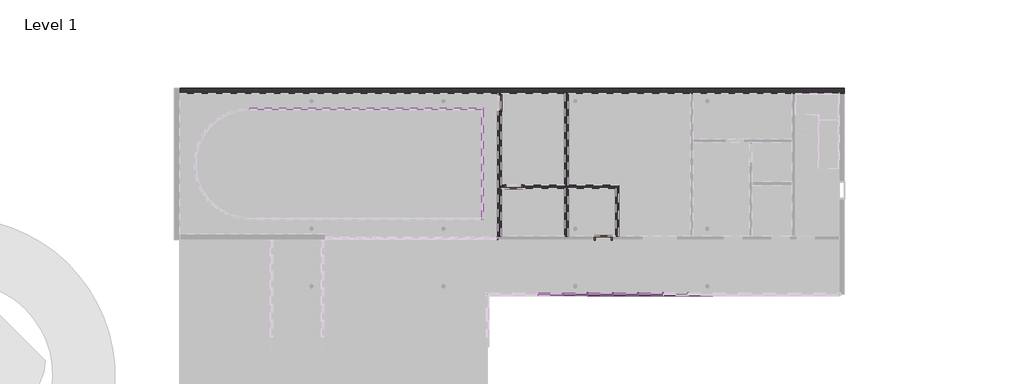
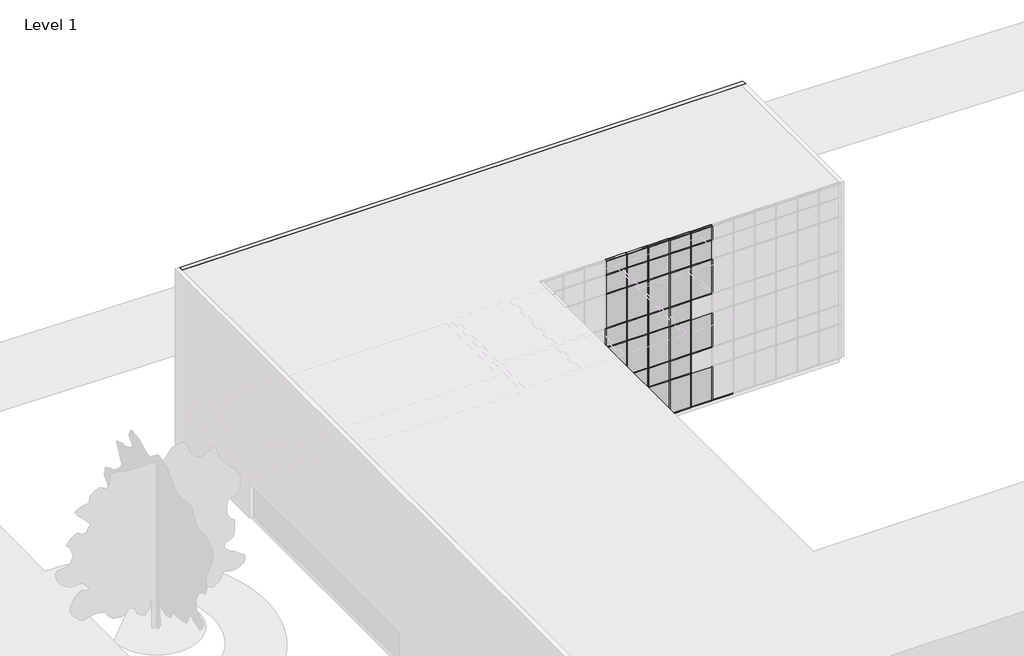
# One storey, part 15 of 23: 77 members, 34 plates, 7 walls, 3 doors.
"""IFC4 building model written with IfcOpenShell, lengths in millimetres."""

from ifc_helpers import new_model, si_unit, origin, origin_with_axes, place, context, project, spatial, polyline, outline, extrude, faceted_brep, transform, mapped, element, save
from components import door_0915mm_x_2134mm_2aa27b83, door_0915mm_x_2134mm_3fa07aa3, rectangular_mullion_50mm_x_150mm_550cda47, rectangular_mullion_50mm_x_150mm_0f59f38f, rectangular_mullion_50mm_x_150mm_22af440f, rectangular_mullion_50mm_x_150mm_5a36e067, rectangular_mullion_50mm_x_150mm_73e7bd4c, rectangular_mullion_50mm_x_150mm_bbc1c4ea, rectangular_mullion_50mm_x_150mm_36202a7c, rectangular_mullion_50mm_x_150mm_84717ec5, system_panel_glazed_6032f2be, system_panel_glazed_cd6fe77c, system_panel_solid_87c6c2f1, system_panel_solid_e0f9033a

model = new_model("IFC4")

# Units and contexts
model_context = context("Model", 3, world=origin())
ifc_project = project(units=[si_unit("LENGTHUNIT", "METRE", prefix="MILLI")], contexts=[model_context])

# Site, building, storey
site = spatial("IfcSite", under=ifc_project)
building = spatial("IfcBuilding", under=site)
storey = spatial("IfcBuildingStorey", under=building, Name="Level 1", Elevation=0.0)

# Doors
placement = place(None, origin())
door_0915mm_x_2134mm_shape = door_0915mm_x_2134mm_2aa27b83(model_context)
element("IfcDoor", 1, ObjectType="m-doors-hm-f1-a : 0915mm x 2134mm", at=placement, inside=storey, context=model_context, shape_type="MappedRepresentation", body=[
    mapped(door_0915mm_x_2134mm_shape, transform((8314.5010724, 30269.5799804, 0.0), x_axis=(0.0, -1.0, 0.0), y_axis=(1.0, 0.0, 0.0), z_axis=(0.0, 0.0, 1.0))),
])
element("IfcDoor", 2, ObjectType="m-doors-hm-f1-a : 0915mm x 2134mm", at=placement, inside=storey, context=model_context, shape_type="MappedRepresentation", body=[
    mapped(door_0915mm_x_2134mm_shape, transform((14023.5010724, 22787.5799804, 0.0), x_axis=(1.0, 0.0, 0.0), y_axis=(0.0, 1.0, 0.0), z_axis=(0.0, 0.0, 1.0))),
])
door_0915mm_x_2134mm_2_shape = door_0915mm_x_2134mm_3fa07aa3(model_context)
element("IfcDoor", 3, ObjectType="m-doors-hm-f1-a : 0915mm x 2134mm", at=placement, inside=storey, context=model_context, shape_type="MappedRepresentation", body=[
    mapped(door_0915mm_x_2134mm_2_shape, transform((8939.5010724, 25345.5799804, 0.0), x_axis=(1.0, 0.0, 0.0), y_axis=(0.0, 1.0, 0.0), z_axis=(0.0, 0.0, 1.0))),
])

# Members
rectangular_mullion_50mm_x_150mm_shape = rectangular_mullion_50mm_x_150mm_550cda47(model_context)
element("IfcMember", 4, ObjectType="Rectangular Mullion : 50mm x 150mm", at=placement, inside=storey, context=model_context, shape_type="MappedRepresentation", body=[
    mapped(rectangular_mullion_50mm_x_150mm_shape, transform((8047.5010724, 22595.5799804, 2235.0), x_axis=(1.0, 0.0, 0.0), y_axis=(0.0, 1.0, 0.0), z_axis=(0.0, 0.0, 1.0))),
])
rectangular_mullion_50mm_x_150mm_2_shape = rectangular_mullion_50mm_x_150mm_0f59f38f(model_context)
element("IfcMember", 5, ObjectType="Rectangular Mullion : 50mm x 150mm", at=placement, inside=storey, context=model_context, shape_type="MappedRepresentation", body=[
    mapped(rectangular_mullion_50mm_x_150mm_2_shape, transform((8047.5010724, 22595.5799804, 3550.0), x_axis=(1.0, 0.0, 0.0), y_axis=(0.0, 1.0, 0.0), z_axis=(0.0, 0.0, 1.0))),
])
rectangular_mullion_50mm_x_150mm_3_shape = rectangular_mullion_50mm_x_150mm_22af440f(model_context)
element("IfcMember", 6, ObjectType="Rectangular Mullion : 50mm x 150mm", at=placement, inside=storey, context=model_context, shape_type="MappedRepresentation", body=[
    mapped(rectangular_mullion_50mm_x_150mm_3_shape, transform((8047.5010724, 22595.5799804, 2135.0), x_axis=(1.0, 0.0, 0.0), y_axis=(0.0, 1.0, 0.0), z_axis=(0.0, 0.0, 1.0))),
])
rectangular_mullion_50mm_x_150mm_4_shape = rectangular_mullion_50mm_x_150mm_5a36e067(model_context)
element("IfcMember", 7, ObjectType="Rectangular Mullion : 50mm x 150mm", at=placement, inside=storey, context=model_context, shape_type="MappedRepresentation", body=[
    mapped(rectangular_mullion_50mm_x_150mm_4_shape, transform((13126.615026, 19414.8392059, 12400.0), x_axis=(0.0, 0.0, 1.0), y_axis=(0.0, -1.0, 0.0), z_axis=(1.0, 0.0, 0.0))),
])
element("IfcMember", 8, ObjectType="Rectangular Mullion : 50mm x 150mm", at=placement, inside=storey, context=model_context, shape_type="MappedRepresentation", body=[
    mapped(rectangular_mullion_50mm_x_150mm_4_shape, transform((14552.6435143, 19414.8392059, 12400.0), x_axis=(0.0, 0.0, 1.0), y_axis=(0.0, -1.0, 0.0), z_axis=(1.0, 0.0, 0.0))),
])
element("IfcMember", 9, ObjectType="Rectangular Mullion : 50mm x 150mm", at=placement, inside=storey, context=model_context, shape_type="MappedRepresentation", body=[
    mapped(rectangular_mullion_50mm_x_150mm_4_shape, transform((15978.6720027, 19414.8392059, 12400.0), x_axis=(0.0, 0.0, 1.0), y_axis=(0.0, -1.0, 0.0), z_axis=(1.0, 0.0, 0.0))),
])
element("IfcMember", 10, ObjectType="Rectangular Mullion : 50mm x 150mm", at=placement, inside=storey, context=model_context, shape_type="MappedRepresentation", body=[
    mapped(rectangular_mullion_50mm_x_150mm_4_shape, transform((17404.700491, 19414.8392059, 12400.0), x_axis=(0.0, 0.0, 1.0), y_axis=(0.0, -1.0, 0.0), z_axis=(1.0, 0.0, 0.0))),
])
element("IfcMember", 11, ObjectType="Rectangular Mullion : 50mm x 150mm", at=placement, inside=storey, context=model_context, shape_type="MappedRepresentation", body=[
    mapped(rectangular_mullion_50mm_x_150mm_4_shape, transform((18830.7289793, 19414.8392059, 12400.0), x_axis=(0.0, 0.0, 1.0), y_axis=(0.0, -1.0, 0.0), z_axis=(1.0, 0.0, 0.0))),
])
element("IfcMember", 12, ObjectType="Rectangular Mullion : 50mm x 150mm", at=placement, inside=storey, context=model_context, shape_type="MappedRepresentation", body=[
    mapped(rectangular_mullion_50mm_x_150mm_4_shape, transform((13176.615026, 19414.8392059, 0.0), x_axis=(0.0, 0.0, -1.0), y_axis=(0.0, -1.0, 0.0), z_axis=(-1.0, 0.0, 0.0))),
])
element("IfcMember", 13, ObjectType="Rectangular Mullion : 50mm x 150mm", at=placement, inside=storey, context=model_context, shape_type="MappedRepresentation", body=[
    mapped(rectangular_mullion_50mm_x_150mm_4_shape, transform((14602.6435143, 19414.8392059, 0.0), x_axis=(0.0, 0.0, -1.0), y_axis=(0.0, -1.0, 0.0), z_axis=(-1.0, 0.0, 0.0))),
])
element("IfcMember", 14, ObjectType="Rectangular Mullion : 50mm x 150mm", at=placement, inside=storey, context=model_context, shape_type="MappedRepresentation", body=[
    mapped(rectangular_mullion_50mm_x_150mm_4_shape, transform((16028.6720027, 19414.8392059, 0.0), x_axis=(0.0, 0.0, -1.0), y_axis=(0.0, -1.0, 0.0), z_axis=(-1.0, 0.0, 0.0))),
])
element("IfcMember", 15, ObjectType="Rectangular Mullion : 50mm x 150mm", at=placement, inside=storey, context=model_context, shape_type="MappedRepresentation", body=[
    mapped(rectangular_mullion_50mm_x_150mm_4_shape, transform((17454.700491, 19414.8392059, 0.0), x_axis=(0.0, 0.0, -1.0), y_axis=(0.0, -1.0, 0.0), z_axis=(-1.0, 0.0, 0.0))),
])
element("IfcMember", 16, ObjectType="Rectangular Mullion : 50mm x 150mm", at=placement, inside=storey, context=model_context, shape_type="MappedRepresentation", body=[
    mapped(rectangular_mullion_50mm_x_150mm_4_shape, transform((18880.7289793, 19414.8392059, 0.0), x_axis=(0.0, 0.0, -1.0), y_axis=(0.0, -1.0, 0.0), z_axis=(-1.0, 0.0, 0.0))),
])
rectangular_mullion_50mm_x_150mm_5_shape = rectangular_mullion_50mm_x_150mm_73e7bd4c(model_context)
element("IfcMember", 17, ObjectType="Rectangular Mullion : 50mm x 150mm", at=placement, inside=storey, context=model_context, shape_type="MappedRepresentation", body=[
    mapped(rectangular_mullion_50mm_x_150mm_5_shape, transform((13126.615026, 19414.8392059, 3800.0), x_axis=(0.0, 0.0, 1.0), y_axis=(0.0, -1.0, 0.0), z_axis=(1.0, 0.0, 0.0))),
])
element("IfcMember", 18, ObjectType="Rectangular Mullion : 50mm x 150mm", at=placement, inside=storey, context=model_context, shape_type="MappedRepresentation", body=[
    mapped(rectangular_mullion_50mm_x_150mm_5_shape, transform((14552.6435143, 19414.8392059, 3800.0), x_axis=(0.0, 0.0, 1.0), y_axis=(0.0, -1.0, 0.0), z_axis=(1.0, 0.0, 0.0))),
])
element("IfcMember", 19, ObjectType="Rectangular Mullion : 50mm x 150mm", at=placement, inside=storey, context=model_context, shape_type="MappedRepresentation", body=[
    mapped(rectangular_mullion_50mm_x_150mm_5_shape, transform((15978.6720027, 19414.8392059, 3800.0), x_axis=(0.0, 0.0, 1.0), y_axis=(0.0, -1.0, 0.0), z_axis=(1.0, 0.0, 0.0))),
])
element("IfcMember", 20, ObjectType="Rectangular Mullion : 50mm x 150mm", at=placement, inside=storey, context=model_context, shape_type="MappedRepresentation", body=[
    mapped(rectangular_mullion_50mm_x_150mm_5_shape, transform((17404.700491, 19414.8392059, 3800.0), x_axis=(0.0, 0.0, 1.0), y_axis=(0.0, -1.0, 0.0), z_axis=(1.0, 0.0, 0.0))),
])
element("IfcMember", 21, ObjectType="Rectangular Mullion : 50mm x 150mm", at=placement, inside=storey, context=model_context, shape_type="MappedRepresentation", body=[
    mapped(rectangular_mullion_50mm_x_150mm_5_shape, transform((18830.7289793, 19414.8392059, 3800.0), x_axis=(0.0, 0.0, 1.0), y_axis=(0.0, -1.0, 0.0), z_axis=(1.0, 0.0, 0.0))),
])
element("IfcMember", 22, ObjectType="Rectangular Mullion : 50mm x 150mm", at=placement, inside=storey, context=model_context, shape_type="MappedRepresentation", body=[
    mapped(rectangular_mullion_50mm_x_150mm_5_shape, transform((13126.615026, 19414.8392059, 7600.0), x_axis=(0.0, 0.0, 1.0), y_axis=(0.0, -1.0, 0.0), z_axis=(1.0, 0.0, 0.0))),
])
element("IfcMember", 23, ObjectType="Rectangular Mullion : 50mm x 150mm", at=placement, inside=storey, context=model_context, shape_type="MappedRepresentation", body=[
    mapped(rectangular_mullion_50mm_x_150mm_5_shape, transform((14552.6435143, 19414.8392059, 7600.0), x_axis=(0.0, 0.0, 1.0), y_axis=(0.0, -1.0, 0.0), z_axis=(1.0, 0.0, 0.0))),
])
element("IfcMember", 24, ObjectType="Rectangular Mullion : 50mm x 150mm", at=placement, inside=storey, context=model_context, shape_type="MappedRepresentation", body=[
    mapped(rectangular_mullion_50mm_x_150mm_5_shape, transform((15978.6720027, 19414.8392059, 7600.0), x_axis=(0.0, 0.0, 1.0), y_axis=(0.0, -1.0, 0.0), z_axis=(1.0, 0.0, 0.0))),
])
element("IfcMember", 25, ObjectType="Rectangular Mullion : 50mm x 150mm", at=placement, inside=storey, context=model_context, shape_type="MappedRepresentation", body=[
    mapped(rectangular_mullion_50mm_x_150mm_5_shape, transform((17404.700491, 19414.8392059, 7600.0), x_axis=(0.0, 0.0, 1.0), y_axis=(0.0, -1.0, 0.0), z_axis=(1.0, 0.0, 0.0))),
])
element("IfcMember", 26, ObjectType="Rectangular Mullion : 50mm x 150mm", at=placement, inside=storey, context=model_context, shape_type="MappedRepresentation", body=[
    mapped(rectangular_mullion_50mm_x_150mm_5_shape, transform((18830.7289793, 19414.8392059, 7600.0), x_axis=(0.0, 0.0, 1.0), y_axis=(0.0, -1.0, 0.0), z_axis=(1.0, 0.0, 0.0))),
])
element("IfcMember", 27, ObjectType="Rectangular Mullion : 50mm x 150mm", at=placement, inside=storey, context=model_context, shape_type="MappedRepresentation", body=[
    mapped(rectangular_mullion_50mm_x_150mm_5_shape, transform((13126.615026, 19414.8392059, 11400.0), x_axis=(0.0, 0.0, 1.0), y_axis=(0.0, -1.0, 0.0), z_axis=(1.0, 0.0, 0.0))),
])
element("IfcMember", 28, ObjectType="Rectangular Mullion : 50mm x 150mm", at=placement, inside=storey, context=model_context, shape_type="MappedRepresentation", body=[
    mapped(rectangular_mullion_50mm_x_150mm_5_shape, transform((14552.6435143, 19414.8392059, 11400.0), x_axis=(0.0, 0.0, 1.0), y_axis=(0.0, -1.0, 0.0), z_axis=(1.0, 0.0, 0.0))),
])
element("IfcMember", 29, ObjectType="Rectangular Mullion : 50mm x 150mm", at=placement, inside=storey, context=model_context, shape_type="MappedRepresentation", body=[
    mapped(rectangular_mullion_50mm_x_150mm_5_shape, transform((15978.6720027, 19414.8392059, 11400.0), x_axis=(0.0, 0.0, 1.0), y_axis=(0.0, -1.0, 0.0), z_axis=(1.0, 0.0, 0.0))),
])
element("IfcMember", 30, ObjectType="Rectangular Mullion : 50mm x 150mm", at=placement, inside=storey, context=model_context, shape_type="MappedRepresentation", body=[
    mapped(rectangular_mullion_50mm_x_150mm_5_shape, transform((17404.700491, 19414.8392059, 11400.0), x_axis=(0.0, 0.0, 1.0), y_axis=(0.0, -1.0, 0.0), z_axis=(1.0, 0.0, 0.0))),
])
element("IfcMember", 31, ObjectType="Rectangular Mullion : 50mm x 150mm", at=placement, inside=storey, context=model_context, shape_type="MappedRepresentation", body=[
    mapped(rectangular_mullion_50mm_x_150mm_5_shape, transform((18830.7289793, 19414.8392059, 11400.0), x_axis=(0.0, 0.0, 1.0), y_axis=(0.0, -1.0, 0.0), z_axis=(1.0, 0.0, 0.0))),
])
element("IfcMember", 32, ObjectType="Rectangular Mullion : 50mm x 150mm", at=placement, inside=storey, context=model_context, shape_type="MappedRepresentation", body=[
    mapped(rectangular_mullion_50mm_x_150mm_5_shape, transform((13126.615026, 19414.8392059, 10040.0), x_axis=(0.0, 0.0, 1.0), y_axis=(0.0, -1.0, 0.0), z_axis=(1.0, 0.0, 0.0))),
])
element("IfcMember", 33, ObjectType="Rectangular Mullion : 50mm x 150mm", at=placement, inside=storey, context=model_context, shape_type="MappedRepresentation", body=[
    mapped(rectangular_mullion_50mm_x_150mm_5_shape, transform((14552.6435143, 19414.8392059, 10040.0), x_axis=(0.0, 0.0, 1.0), y_axis=(0.0, -1.0, 0.0), z_axis=(1.0, 0.0, 0.0))),
])
element("IfcMember", 34, ObjectType="Rectangular Mullion : 50mm x 150mm", at=placement, inside=storey, context=model_context, shape_type="MappedRepresentation", body=[
    mapped(rectangular_mullion_50mm_x_150mm_5_shape, transform((15978.6720027, 19414.8392059, 10040.0), x_axis=(0.0, 0.0, 1.0), y_axis=(0.0, -1.0, 0.0), z_axis=(1.0, 0.0, 0.0))),
])
element("IfcMember", 35, ObjectType="Rectangular Mullion : 50mm x 150mm", at=placement, inside=storey, context=model_context, shape_type="MappedRepresentation", body=[
    mapped(rectangular_mullion_50mm_x_150mm_5_shape, transform((17404.700491, 19414.8392059, 10040.0), x_axis=(0.0, 0.0, 1.0), y_axis=(0.0, -1.0, 0.0), z_axis=(1.0, 0.0, 0.0))),
])
element("IfcMember", 36, ObjectType="Rectangular Mullion : 50mm x 150mm", at=placement, inside=storey, context=model_context, shape_type="MappedRepresentation", body=[
    mapped(rectangular_mullion_50mm_x_150mm_5_shape, transform((18830.7289793, 19414.8392059, 10040.0), x_axis=(0.0, 0.0, 1.0), y_axis=(0.0, -1.0, 0.0), z_axis=(1.0, 0.0, 0.0))),
])
element("IfcMember", 37, ObjectType="Rectangular Mullion : 50mm x 150mm", at=placement, inside=storey, context=model_context, shape_type="MappedRepresentation", body=[
    mapped(rectangular_mullion_50mm_x_150mm_5_shape, transform((11700.5865377, 19414.8392059, 6240.0), x_axis=(0.0, 0.0, 1.0), y_axis=(0.0, -1.0, 0.0), z_axis=(1.0, 0.0, 0.0))),
])
element("IfcMember", 38, ObjectType="Rectangular Mullion : 50mm x 150mm", at=placement, inside=storey, context=model_context, shape_type="MappedRepresentation", body=[
    mapped(rectangular_mullion_50mm_x_150mm_5_shape, transform((13126.615026, 19414.8392059, 6240.0), x_axis=(0.0, 0.0, 1.0), y_axis=(0.0, -1.0, 0.0), z_axis=(1.0, 0.0, 0.0))),
])
element("IfcMember", 39, ObjectType="Rectangular Mullion : 50mm x 150mm", at=placement, inside=storey, context=model_context, shape_type="MappedRepresentation", body=[
    mapped(rectangular_mullion_50mm_x_150mm_5_shape, transform((14552.6435143, 19414.8392059, 6240.0), x_axis=(0.0, 0.0, 1.0), y_axis=(0.0, -1.0, 0.0), z_axis=(1.0, 0.0, 0.0))),
])
element("IfcMember", 40, ObjectType="Rectangular Mullion : 50mm x 150mm", at=placement, inside=storey, context=model_context, shape_type="MappedRepresentation", body=[
    mapped(rectangular_mullion_50mm_x_150mm_5_shape, transform((15978.6720027, 19414.8392059, 6240.0), x_axis=(0.0, 0.0, 1.0), y_axis=(0.0, -1.0, 0.0), z_axis=(1.0, 0.0, 0.0))),
])
element("IfcMember", 41, ObjectType="Rectangular Mullion : 50mm x 150mm", at=placement, inside=storey, context=model_context, shape_type="MappedRepresentation", body=[
    mapped(rectangular_mullion_50mm_x_150mm_5_shape, transform((17404.700491, 19414.8392059, 6240.0), x_axis=(0.0, 0.0, 1.0), y_axis=(0.0, -1.0, 0.0), z_axis=(1.0, 0.0, 0.0))),
])
element("IfcMember", 42, ObjectType="Rectangular Mullion : 50mm x 150mm", at=placement, inside=storey, context=model_context, shape_type="MappedRepresentation", body=[
    mapped(rectangular_mullion_50mm_x_150mm_5_shape, transform((11700.5865377, 19414.8392059, 2440.0), x_axis=(0.0, 0.0, 1.0), y_axis=(0.0, -1.0, 0.0), z_axis=(1.0, 0.0, 0.0))),
])
element("IfcMember", 43, ObjectType="Rectangular Mullion : 50mm x 150mm", at=placement, inside=storey, context=model_context, shape_type="MappedRepresentation", body=[
    mapped(rectangular_mullion_50mm_x_150mm_5_shape, transform((13126.615026, 19414.8392059, 2440.0), x_axis=(0.0, 0.0, 1.0), y_axis=(0.0, -1.0, 0.0), z_axis=(1.0, 0.0, 0.0))),
])
element("IfcMember", 44, ObjectType="Rectangular Mullion : 50mm x 150mm", at=placement, inside=storey, context=model_context, shape_type="MappedRepresentation", body=[
    mapped(rectangular_mullion_50mm_x_150mm_5_shape, transform((14552.6435143, 19414.8392059, 2440.0), x_axis=(0.0, 0.0, 1.0), y_axis=(0.0, -1.0, 0.0), z_axis=(1.0, 0.0, 0.0))),
])
element("IfcMember", 45, ObjectType="Rectangular Mullion : 50mm x 150mm", at=placement, inside=storey, context=model_context, shape_type="MappedRepresentation", body=[
    mapped(rectangular_mullion_50mm_x_150mm_5_shape, transform((15978.6720027, 19414.8392059, 2440.0), x_axis=(0.0, 0.0, 1.0), y_axis=(0.0, -1.0, 0.0), z_axis=(1.0, 0.0, 0.0))),
])
element("IfcMember", 46, ObjectType="Rectangular Mullion : 50mm x 150mm", at=placement, inside=storey, context=model_context, shape_type="MappedRepresentation", body=[
    mapped(rectangular_mullion_50mm_x_150mm_5_shape, transform((17404.700491, 19414.8392059, 2440.0), x_axis=(0.0, 0.0, 1.0), y_axis=(0.0, -1.0, 0.0), z_axis=(1.0, 0.0, 0.0))),
])
rectangular_mullion_50mm_x_150mm_6_shape = rectangular_mullion_50mm_x_150mm_bbc1c4ea(model_context)
element("IfcMember", 47, ObjectType="Rectangular Mullion : 50mm x 150mm", at=placement, inside=storey, context=model_context, shape_type="MappedRepresentation", body=[
    mapped(rectangular_mullion_50mm_x_150mm_6_shape, transform((13151.615026, 19414.8392059, 11400.0), x_axis=(1.0, 0.0, 0.0), y_axis=(0.0, -1.0, 0.0), z_axis=(0.0, 0.0, -1.0))),
])
element("IfcMember", 48, ObjectType="Rectangular Mullion : 50mm x 150mm", at=placement, inside=storey, context=model_context, shape_type="MappedRepresentation", body=[
    mapped(rectangular_mullion_50mm_x_150mm_6_shape, transform((14577.6435143, 19414.8392059, 11400.0), x_axis=(1.0, 0.0, 0.0), y_axis=(0.0, -1.0, 0.0), z_axis=(0.0, 0.0, -1.0))),
])
element("IfcMember", 49, ObjectType="Rectangular Mullion : 50mm x 150mm", at=placement, inside=storey, context=model_context, shape_type="MappedRepresentation", body=[
    mapped(rectangular_mullion_50mm_x_150mm_6_shape, transform((16003.6720027, 19414.8392059, 11400.0), x_axis=(1.0, 0.0, 0.0), y_axis=(0.0, -1.0, 0.0), z_axis=(0.0, 0.0, -1.0))),
])
element("IfcMember", 50, ObjectType="Rectangular Mullion : 50mm x 150mm", at=placement, inside=storey, context=model_context, shape_type="MappedRepresentation", body=[
    mapped(rectangular_mullion_50mm_x_150mm_6_shape, transform((17429.700491, 19414.8392059, 11400.0), x_axis=(1.0, 0.0, 0.0), y_axis=(0.0, -1.0, 0.0), z_axis=(0.0, 0.0, -1.0))),
])
element("IfcMember", 51, ObjectType="Rectangular Mullion : 50mm x 150mm", at=placement, inside=storey, context=model_context, shape_type="MappedRepresentation", body=[
    mapped(rectangular_mullion_50mm_x_150mm_6_shape, transform((18855.7289793, 19414.8392059, 11400.0), x_axis=(1.0, 0.0, 0.0), y_axis=(0.0, -1.0, 0.0), z_axis=(0.0, 0.0, -1.0))),
])
rectangular_mullion_50mm_x_150mm_7_shape = rectangular_mullion_50mm_x_150mm_36202a7c(model_context)
element("IfcMember", 52, ObjectType="Rectangular Mullion : 50mm x 150mm", at=placement, inside=storey, context=model_context, shape_type="MappedRepresentation", body=[
    mapped(rectangular_mullion_50mm_x_150mm_7_shape, transform((13151.615026, 19414.8392059, 0.0), x_axis=(1.0, 0.0, 0.0), y_axis=(0.0, -1.0, 0.0), z_axis=(0.0, 0.0, -1.0))),
])
element("IfcMember", 53, ObjectType="Rectangular Mullion : 50mm x 150mm", at=placement, inside=storey, context=model_context, shape_type="MappedRepresentation", body=[
    mapped(rectangular_mullion_50mm_x_150mm_7_shape, transform((14577.6435143, 19414.8392059, 0.0), x_axis=(1.0, 0.0, 0.0), y_axis=(0.0, -1.0, 0.0), z_axis=(0.0, 0.0, -1.0))),
])
element("IfcMember", 54, ObjectType="Rectangular Mullion : 50mm x 150mm", at=placement, inside=storey, context=model_context, shape_type="MappedRepresentation", body=[
    mapped(rectangular_mullion_50mm_x_150mm_7_shape, transform((16003.6720027, 19414.8392059, 0.0), x_axis=(1.0, 0.0, 0.0), y_axis=(0.0, -1.0, 0.0), z_axis=(0.0, 0.0, -1.0))),
])
element("IfcMember", 55, ObjectType="Rectangular Mullion : 50mm x 150mm", at=placement, inside=storey, context=model_context, shape_type="MappedRepresentation", body=[
    mapped(rectangular_mullion_50mm_x_150mm_7_shape, transform((17429.700491, 19414.8392059, 0.0), x_axis=(1.0, 0.0, 0.0), y_axis=(0.0, -1.0, 0.0), z_axis=(0.0, 0.0, -1.0))),
])
element("IfcMember", 56, ObjectType="Rectangular Mullion : 50mm x 150mm", at=placement, inside=storey, context=model_context, shape_type="MappedRepresentation", body=[
    mapped(rectangular_mullion_50mm_x_150mm_7_shape, transform((18855.7289793, 19414.8392059, 0.0), x_axis=(1.0, 0.0, 0.0), y_axis=(0.0, -1.0, 0.0), z_axis=(0.0, 0.0, -1.0))),
])
rectangular_mullion_50mm_x_150mm_8_shape = rectangular_mullion_50mm_x_150mm_84717ec5(model_context)
element("IfcMember", 57, ObjectType="Rectangular Mullion : 50mm x 150mm", at=placement, inside=storey, context=model_context, shape_type="MappedRepresentation", body=[
    mapped(rectangular_mullion_50mm_x_150mm_8_shape, transform((13151.615026, 19414.8392059, 10040.0), x_axis=(1.0, 0.0, 0.0), y_axis=(0.0, -1.0, 0.0), z_axis=(0.0, 0.0, -1.0))),
])
element("IfcMember", 58, ObjectType="Rectangular Mullion : 50mm x 150mm", at=placement, inside=storey, context=model_context, shape_type="MappedRepresentation", body=[
    mapped(rectangular_mullion_50mm_x_150mm_8_shape, transform((14577.6435143, 19414.8392059, 10040.0), x_axis=(1.0, 0.0, 0.0), y_axis=(0.0, -1.0, 0.0), z_axis=(0.0, 0.0, -1.0))),
])
element("IfcMember", 59, ObjectType="Rectangular Mullion : 50mm x 150mm", at=placement, inside=storey, context=model_context, shape_type="MappedRepresentation", body=[
    mapped(rectangular_mullion_50mm_x_150mm_8_shape, transform((16003.6720027, 19414.8392059, 10040.0), x_axis=(1.0, 0.0, 0.0), y_axis=(0.0, -1.0, 0.0), z_axis=(0.0, 0.0, -1.0))),
])
element("IfcMember", 60, ObjectType="Rectangular Mullion : 50mm x 150mm", at=placement, inside=storey, context=model_context, shape_type="MappedRepresentation", body=[
    mapped(rectangular_mullion_50mm_x_150mm_8_shape, transform((17429.700491, 19414.8392059, 10040.0), x_axis=(1.0, 0.0, 0.0), y_axis=(0.0, -1.0, 0.0), z_axis=(0.0, 0.0, -1.0))),
])
element("IfcMember", 61, ObjectType="Rectangular Mullion : 50mm x 150mm", at=placement, inside=storey, context=model_context, shape_type="MappedRepresentation", body=[
    mapped(rectangular_mullion_50mm_x_150mm_8_shape, transform((11725.5865377, 19414.8392059, 6240.0), x_axis=(1.0, 0.0, 0.0), y_axis=(0.0, -1.0, 0.0), z_axis=(0.0, 0.0, -1.0))),
])
element("IfcMember", 62, ObjectType="Rectangular Mullion : 50mm x 150mm", at=placement, inside=storey, context=model_context, shape_type="MappedRepresentation", body=[
    mapped(rectangular_mullion_50mm_x_150mm_8_shape, transform((13151.615026, 19414.8392059, 6240.0), x_axis=(1.0, 0.0, 0.0), y_axis=(0.0, -1.0, 0.0), z_axis=(0.0, 0.0, -1.0))),
])
element("IfcMember", 63, ObjectType="Rectangular Mullion : 50mm x 150mm", at=placement, inside=storey, context=model_context, shape_type="MappedRepresentation", body=[
    mapped(rectangular_mullion_50mm_x_150mm_8_shape, transform((14577.6435143, 19414.8392059, 6240.0), x_axis=(1.0, 0.0, 0.0), y_axis=(0.0, -1.0, 0.0), z_axis=(0.0, 0.0, -1.0))),
])
element("IfcMember", 64, ObjectType="Rectangular Mullion : 50mm x 150mm", at=placement, inside=storey, context=model_context, shape_type="MappedRepresentation", body=[
    mapped(rectangular_mullion_50mm_x_150mm_8_shape, transform((16003.6720027, 19414.8392059, 6240.0), x_axis=(1.0, 0.0, 0.0), y_axis=(0.0, -1.0, 0.0), z_axis=(0.0, 0.0, -1.0))),
])
element("IfcMember", 65, ObjectType="Rectangular Mullion : 50mm x 150mm", at=placement, inside=storey, context=model_context, shape_type="MappedRepresentation", body=[
    mapped(rectangular_mullion_50mm_x_150mm_8_shape, transform((17429.700491, 19414.8392059, 6240.0), x_axis=(1.0, 0.0, 0.0), y_axis=(0.0, -1.0, 0.0), z_axis=(0.0, 0.0, -1.0))),
])
element("IfcMember", 66, ObjectType="Rectangular Mullion : 50mm x 150mm", at=placement, inside=storey, context=model_context, shape_type="MappedRepresentation", body=[
    mapped(rectangular_mullion_50mm_x_150mm_8_shape, transform((11725.5865377, 19414.8392059, 2440.0), x_axis=(1.0, 0.0, 0.0), y_axis=(0.0, -1.0, 0.0), z_axis=(0.0, 0.0, -1.0))),
])
element("IfcMember", 67, ObjectType="Rectangular Mullion : 50mm x 150mm", at=placement, inside=storey, context=model_context, shape_type="MappedRepresentation", body=[
    mapped(rectangular_mullion_50mm_x_150mm_8_shape, transform((13151.615026, 19414.8392059, 2440.0), x_axis=(1.0, 0.0, 0.0), y_axis=(0.0, -1.0, 0.0), z_axis=(0.0, 0.0, -1.0))),
])
element("IfcMember", 68, ObjectType="Rectangular Mullion : 50mm x 150mm", at=placement, inside=storey, context=model_context, shape_type="MappedRepresentation", body=[
    mapped(rectangular_mullion_50mm_x_150mm_8_shape, transform((14577.6435143, 19414.8392059, 2440.0), x_axis=(1.0, 0.0, 0.0), y_axis=(0.0, -1.0, 0.0), z_axis=(0.0, 0.0, -1.0))),
])
element("IfcMember", 69, ObjectType="Rectangular Mullion : 50mm x 150mm", at=placement, inside=storey, context=model_context, shape_type="MappedRepresentation", body=[
    mapped(rectangular_mullion_50mm_x_150mm_8_shape, transform((16003.6720027, 19414.8392059, 2440.0), x_axis=(1.0, 0.0, 0.0), y_axis=(0.0, -1.0, 0.0), z_axis=(0.0, 0.0, -1.0))),
])
element("IfcMember", 70, ObjectType="Rectangular Mullion : 50mm x 150mm", at=placement, inside=storey, context=model_context, shape_type="MappedRepresentation", body=[
    mapped(rectangular_mullion_50mm_x_150mm_8_shape, transform((17429.700491, 19414.8392059, 2440.0), x_axis=(1.0, 0.0, 0.0), y_axis=(0.0, -1.0, 0.0), z_axis=(0.0, 0.0, -1.0))),
])
element("IfcMember", 71, ObjectType="Rectangular Mullion : 50mm x 150mm", at=placement, inside=storey, context=model_context, shape_type="MappedRepresentation", body=[
    mapped(rectangular_mullion_50mm_x_150mm_7_shape, transform((13151.615026, 19414.8392059, 3800.0), x_axis=(1.0, 0.0, 0.0), y_axis=(0.0, -1.0, 0.0), z_axis=(0.0, 0.0, -1.0))),
])
element("IfcMember", 72, ObjectType="Rectangular Mullion : 50mm x 150mm", at=placement, inside=storey, context=model_context, shape_type="MappedRepresentation", body=[
    mapped(rectangular_mullion_50mm_x_150mm_7_shape, transform((14577.6435143, 19414.8392059, 3800.0), x_axis=(1.0, 0.0, 0.0), y_axis=(0.0, -1.0, 0.0), z_axis=(0.0, 0.0, -1.0))),
])
element("IfcMember", 73, ObjectType="Rectangular Mullion : 50mm x 150mm", at=placement, inside=storey, context=model_context, shape_type="MappedRepresentation", body=[
    mapped(rectangular_mullion_50mm_x_150mm_7_shape, transform((16003.6720027, 19414.8392059, 3800.0), x_axis=(1.0, 0.0, 0.0), y_axis=(0.0, -1.0, 0.0), z_axis=(0.0, 0.0, -1.0))),
])
element("IfcMember", 74, ObjectType="Rectangular Mullion : 50mm x 150mm", at=placement, inside=storey, context=model_context, shape_type="MappedRepresentation", body=[
    mapped(rectangular_mullion_50mm_x_150mm_7_shape, transform((17429.700491, 19414.8392059, 3800.0), x_axis=(1.0, 0.0, 0.0), y_axis=(0.0, -1.0, 0.0), z_axis=(0.0, 0.0, -1.0))),
])
element("IfcMember", 75, ObjectType="Rectangular Mullion : 50mm x 150mm", at=placement, inside=storey, context=model_context, shape_type="MappedRepresentation", body=[
    mapped(rectangular_mullion_50mm_x_150mm_7_shape, transform((18855.7289793, 19414.8392059, 3800.0), x_axis=(1.0, 0.0, 0.0), y_axis=(0.0, -1.0, 0.0), z_axis=(0.0, 0.0, -1.0))),
])
element("IfcMember", 76, ObjectType="Rectangular Mullion : 50mm x 150mm", at=placement, inside=storey, context=model_context, shape_type="MappedRepresentation", body=[
    mapped(rectangular_mullion_50mm_x_150mm_7_shape, transform((13151.615026, 19414.8392059, 7600.0), x_axis=(1.0, 0.0, 0.0), y_axis=(0.0, -1.0, 0.0), z_axis=(0.0, 0.0, -1.0))),
])
element("IfcMember", 77, ObjectType="Rectangular Mullion : 50mm x 150mm", at=placement, inside=storey, context=model_context, shape_type="MappedRepresentation", body=[
    mapped(rectangular_mullion_50mm_x_150mm_7_shape, transform((14577.6435143, 19414.8392059, 7600.0), x_axis=(1.0, 0.0, 0.0), y_axis=(0.0, -1.0, 0.0), z_axis=(0.0, 0.0, -1.0))),
])
element("IfcMember", 78, ObjectType="Rectangular Mullion : 50mm x 150mm", at=placement, inside=storey, context=model_context, shape_type="MappedRepresentation", body=[
    mapped(rectangular_mullion_50mm_x_150mm_7_shape, transform((16003.6720027, 19414.8392059, 7600.0), x_axis=(1.0, 0.0, 0.0), y_axis=(0.0, -1.0, 0.0), z_axis=(0.0, 0.0, -1.0))),
])
element("IfcMember", 79, ObjectType="Rectangular Mullion : 50mm x 150mm", at=placement, inside=storey, context=model_context, shape_type="MappedRepresentation", body=[
    mapped(rectangular_mullion_50mm_x_150mm_7_shape, transform((17429.700491, 19414.8392059, 7600.0), x_axis=(1.0, 0.0, 0.0), y_axis=(0.0, -1.0, 0.0), z_axis=(0.0, 0.0, -1.0))),
])
element("IfcMember", 80, ObjectType="Rectangular Mullion : 50mm x 150mm", at=placement, inside=storey, context=model_context, shape_type="MappedRepresentation", body=[
    mapped(rectangular_mullion_50mm_x_150mm_7_shape, transform((18855.7289793, 19414.8392059, 7600.0), x_axis=(1.0, 0.0, 0.0), y_axis=(0.0, -1.0, 0.0), z_axis=(0.0, 0.0, -1.0))),
])

# Plates
system_panel_glazed_shape = system_panel_glazed_6032f2be(model_context)
element("IfcPlate", 81, ObjectType="System Panel : Glazed", at=placement, inside=storey, context=model_context, shape_type="MappedRepresentation", body=[
    mapped(system_panel_glazed_shape, transform((12438.6007818, 19414.8392059, 3825.0), x_axis=(1.0, 0.0, 0.0), y_axis=(0.0, 1.0, 0.0), z_axis=(0.0, 0.0, 1.0))),
])
element("IfcPlate", 82, ObjectType="System Panel : Glazed", at=placement, inside=storey, context=model_context, shape_type="MappedRepresentation", body=[
    mapped(system_panel_glazed_shape, transform((13864.6292702, 19414.8392059, 3825.0), x_axis=(1.0, 0.0, 0.0), y_axis=(0.0, 1.0, 0.0), z_axis=(0.0, 0.0, 1.0))),
])
element("IfcPlate", 83, ObjectType="System Panel : Glazed", at=placement, inside=storey, context=model_context, shape_type="MappedRepresentation", body=[
    mapped(system_panel_glazed_shape, transform((15290.6577585, 19414.8392059, 3825.0), x_axis=(1.0, 0.0, 0.0), y_axis=(0.0, 1.0, 0.0), z_axis=(0.0, 0.0, 1.0))),
])
element("IfcPlate", 84, ObjectType="System Panel : Glazed", at=placement, inside=storey, context=model_context, shape_type="MappedRepresentation", body=[
    mapped(system_panel_glazed_shape, transform((16716.6862468, 19414.8392059, 3825.0), x_axis=(1.0, 0.0, 0.0), y_axis=(0.0, 1.0, 0.0), z_axis=(0.0, 0.0, 1.0))),
])
element("IfcPlate", 85, ObjectType="System Panel : Glazed", at=placement, inside=storey, context=model_context, shape_type="MappedRepresentation", body=[
    mapped(system_panel_glazed_shape, transform((18142.7147352, 19414.8392059, 3825.0), x_axis=(1.0, 0.0, 0.0), y_axis=(0.0, 1.0, 0.0), z_axis=(0.0, 0.0, 1.0))),
])
element("IfcPlate", 86, ObjectType="System Panel : Glazed", at=placement, inside=storey, context=model_context, shape_type="MappedRepresentation", body=[
    mapped(system_panel_glazed_shape, transform((12438.6007818, 19414.8392059, 7625.0), x_axis=(1.0, 0.0, 0.0), y_axis=(0.0, 1.0, 0.0), z_axis=(0.0, 0.0, 1.0))),
])
element("IfcPlate", 87, ObjectType="System Panel : Glazed", at=placement, inside=storey, context=model_context, shape_type="MappedRepresentation", body=[
    mapped(system_panel_glazed_shape, transform((13864.6292702, 19414.8392059, 7625.0), x_axis=(1.0, 0.0, 0.0), y_axis=(0.0, 1.0, 0.0), z_axis=(0.0, 0.0, 1.0))),
])
element("IfcPlate", 88, ObjectType="System Panel : Glazed", at=placement, inside=storey, context=model_context, shape_type="MappedRepresentation", body=[
    mapped(system_panel_glazed_shape, transform((15290.6577585, 19414.8392059, 7625.0), x_axis=(1.0, 0.0, 0.0), y_axis=(0.0, 1.0, 0.0), z_axis=(0.0, 0.0, 1.0))),
])
element("IfcPlate", 89, ObjectType="System Panel : Glazed", at=placement, inside=storey, context=model_context, shape_type="MappedRepresentation", body=[
    mapped(system_panel_glazed_shape, transform((16716.6862468, 19414.8392059, 7625.0), x_axis=(1.0, 0.0, 0.0), y_axis=(0.0, 1.0, 0.0), z_axis=(0.0, 0.0, 1.0))),
])
element("IfcPlate", 90, ObjectType="System Panel : Glazed", at=placement, inside=storey, context=model_context, shape_type="MappedRepresentation", body=[
    mapped(system_panel_glazed_shape, transform((18142.7147352, 19414.8392059, 7625.0), x_axis=(1.0, 0.0, 0.0), y_axis=(0.0, 1.0, 0.0), z_axis=(0.0, 0.0, 1.0))),
])
system_panel_glazed_2_shape = system_panel_glazed_cd6fe77c(model_context)
element("IfcPlate", 91, ObjectType="System Panel : Glazed", at=placement, inside=storey, context=model_context, shape_type="MappedRepresentation", body=[
    mapped(system_panel_glazed_2_shape, transform((12438.6007818, 19414.8392059, 50.0), x_axis=(1.0, 0.0, 0.0), y_axis=(0.0, 1.0, 0.0), z_axis=(0.0, 0.0, 1.0))),
])
element("IfcPlate", 92, ObjectType="System Panel : Glazed", at=placement, inside=storey, context=model_context, shape_type="MappedRepresentation", body=[
    mapped(system_panel_glazed_2_shape, transform((13864.6292702, 19414.8392059, 50.0), x_axis=(1.0, 0.0, 0.0), y_axis=(0.0, 1.0, 0.0), z_axis=(0.0, 0.0, 1.0))),
])
element("IfcPlate", 93, ObjectType="System Panel : Glazed", at=placement, inside=storey, context=model_context, shape_type="MappedRepresentation", body=[
    mapped(system_panel_glazed_2_shape, transform((15290.6577585, 19414.8392059, 50.0), x_axis=(1.0, 0.0, 0.0), y_axis=(0.0, 1.0, 0.0), z_axis=(0.0, 0.0, 1.0))),
])
element("IfcPlate", 94, ObjectType="System Panel : Glazed", at=placement, inside=storey, context=model_context, shape_type="MappedRepresentation", body=[
    mapped(system_panel_glazed_2_shape, transform((16716.6862468, 19414.8392059, 50.0), x_axis=(1.0, 0.0, 0.0), y_axis=(0.0, 1.0, 0.0), z_axis=(0.0, 0.0, 1.0))),
])
element("IfcPlate", 95, ObjectType="System Panel : Glazed", at=placement, inside=storey, context=model_context, shape_type="MappedRepresentation", body=[
    mapped(system_panel_glazed_2_shape, transform((18142.7147352, 19414.8392059, 50.0), x_axis=(1.0, 0.0, 0.0), y_axis=(0.0, 1.0, 0.0), z_axis=(0.0, 0.0, 1.0))),
])
system_panel_solid_shape = system_panel_solid_87c6c2f1(model_context)
element("IfcPlate", 96, ObjectType="System Panel : Solid", at=placement, inside=storey, context=model_context, shape_type="MappedRepresentation", body=[
    mapped(system_panel_solid_shape, transform((12438.6007818, 19414.8392059, 11425.0), x_axis=(1.0, 0.0, 0.0), y_axis=(0.0, 1.0, 0.0), z_axis=(0.0, 0.0, 1.0))),
])
element("IfcPlate", 97, ObjectType="System Panel : Solid", at=placement, inside=storey, context=model_context, shape_type="MappedRepresentation", body=[
    mapped(system_panel_solid_shape, transform((13864.6292702, 19414.8392059, 11425.0), x_axis=(1.0, 0.0, 0.0), y_axis=(0.0, 1.0, 0.0), z_axis=(0.0, 0.0, 1.0))),
])
element("IfcPlate", 98, ObjectType="System Panel : Solid", at=placement, inside=storey, context=model_context, shape_type="MappedRepresentation", body=[
    mapped(system_panel_solid_shape, transform((15290.6577585, 19414.8392059, 11425.0), x_axis=(1.0, 0.0, 0.0), y_axis=(0.0, 1.0, 0.0), z_axis=(0.0, 0.0, 1.0))),
])
element("IfcPlate", 99, ObjectType="System Panel : Solid", at=placement, inside=storey, context=model_context, shape_type="MappedRepresentation", body=[
    mapped(system_panel_solid_shape, transform((16716.6862468, 19414.8392059, 11425.0), x_axis=(1.0, 0.0, 0.0), y_axis=(0.0, 1.0, 0.0), z_axis=(0.0, 0.0, 1.0))),
])
element("IfcPlate", 100, ObjectType="System Panel : Solid", at=placement, inside=storey, context=model_context, shape_type="MappedRepresentation", body=[
    mapped(system_panel_solid_shape, transform((18142.7147352, 19414.8392059, 11425.0), x_axis=(1.0, 0.0, 0.0), y_axis=(0.0, 1.0, 0.0), z_axis=(0.0, 0.0, 1.0))),
])
system_panel_solid_2_shape = system_panel_solid_e0f9033a(model_context)
element("IfcPlate", 101, ObjectType="System Panel : Solid", at=placement, inside=storey, context=model_context, shape_type="MappedRepresentation", body=[
    mapped(system_panel_solid_2_shape, transform((12438.6007818, 19414.8392059, 10065.0), x_axis=(1.0, 0.0, 0.0), y_axis=(0.0, 1.0, 0.0), z_axis=(0.0, 0.0, 1.0))),
])
element("IfcPlate", 102, ObjectType="System Panel : Solid", at=placement, inside=storey, context=model_context, shape_type="MappedRepresentation", body=[
    mapped(system_panel_solid_2_shape, transform((13864.6292702, 19414.8392059, 10065.0), x_axis=(1.0, 0.0, 0.0), y_axis=(0.0, 1.0, 0.0), z_axis=(0.0, 0.0, 1.0))),
])
element("IfcPlate", 103, ObjectType="System Panel : Solid", at=placement, inside=storey, context=model_context, shape_type="MappedRepresentation", body=[
    mapped(system_panel_solid_2_shape, transform((15290.6577585, 19414.8392059, 10065.0), x_axis=(1.0, 0.0, 0.0), y_axis=(0.0, 1.0, 0.0), z_axis=(0.0, 0.0, 1.0))),
])
element("IfcPlate", 104, ObjectType="System Panel : Solid", at=placement, inside=storey, context=model_context, shape_type="MappedRepresentation", body=[
    mapped(system_panel_solid_2_shape, transform((16716.6862468, 19414.8392059, 10065.0), x_axis=(1.0, 0.0, 0.0), y_axis=(0.0, 1.0, 0.0), z_axis=(0.0, 0.0, 1.0))),
])
element("IfcPlate", 105, ObjectType="System Panel : Solid", at=placement, inside=storey, context=model_context, shape_type="MappedRepresentation", body=[
    mapped(system_panel_solid_2_shape, transform((18142.7147352, 19414.8392059, 10065.0), x_axis=(1.0, 0.0, 0.0), y_axis=(0.0, 1.0, 0.0), z_axis=(0.0, 0.0, 1.0))),
])
element("IfcPlate", 106, ObjectType="System Panel : Solid", at=placement, inside=storey, context=model_context, shape_type="MappedRepresentation", body=[
    mapped(system_panel_solid_2_shape, transform((12438.6007818, 19414.8392059, 6265.0), x_axis=(1.0, 0.0, 0.0), y_axis=(0.0, 1.0, 0.0), z_axis=(0.0, 0.0, 1.0))),
])
element("IfcPlate", 107, ObjectType="System Panel : Solid", at=placement, inside=storey, context=model_context, shape_type="MappedRepresentation", body=[
    mapped(system_panel_solid_2_shape, transform((13864.6292702, 19414.8392059, 6265.0), x_axis=(1.0, 0.0, 0.0), y_axis=(0.0, 1.0, 0.0), z_axis=(0.0, 0.0, 1.0))),
])
element("IfcPlate", 108, ObjectType="System Panel : Solid", at=placement, inside=storey, context=model_context, shape_type="MappedRepresentation", body=[
    mapped(system_panel_solid_2_shape, transform((15290.6577585, 19414.8392059, 6265.0), x_axis=(1.0, 0.0, 0.0), y_axis=(0.0, 1.0, 0.0), z_axis=(0.0, 0.0, 1.0))),
])
element("IfcPlate", 109, ObjectType="System Panel : Solid", at=placement, inside=storey, context=model_context, shape_type="MappedRepresentation", body=[
    mapped(system_panel_solid_2_shape, transform((16716.6862468, 19414.8392059, 6265.0), x_axis=(1.0, 0.0, 0.0), y_axis=(0.0, 1.0, 0.0), z_axis=(0.0, 0.0, 1.0))),
])
element("IfcPlate", 110, ObjectType="System Panel : Solid", at=placement, inside=storey, context=model_context, shape_type="MappedRepresentation", body=[
    mapped(system_panel_solid_2_shape, transform((11012.5722935, 19414.8392059, 2465.0), x_axis=(1.0, 0.0, 0.0), y_axis=(0.0, 1.0, 0.0), z_axis=(0.0, 0.0, 1.0))),
])
element("IfcPlate", 111, ObjectType="System Panel : Solid", at=placement, inside=storey, context=model_context, shape_type="MappedRepresentation", body=[
    mapped(system_panel_solid_2_shape, transform((12438.6007818, 19414.8392059, 2465.0), x_axis=(1.0, 0.0, 0.0), y_axis=(0.0, 1.0, 0.0), z_axis=(0.0, 0.0, 1.0))),
])
element("IfcPlate", 112, ObjectType="System Panel : Solid", at=placement, inside=storey, context=model_context, shape_type="MappedRepresentation", body=[
    mapped(system_panel_solid_2_shape, transform((13864.6292702, 19414.8392059, 2465.0), x_axis=(1.0, 0.0, 0.0), y_axis=(0.0, 1.0, 0.0), z_axis=(0.0, 0.0, 1.0))),
])
element("IfcPlate", 113, ObjectType="System Panel : Solid", at=placement, inside=storey, context=model_context, shape_type="MappedRepresentation", body=[
    mapped(system_panel_solid_2_shape, transform((15290.6577585, 19414.8392059, 2465.0), x_axis=(1.0, 0.0, 0.0), y_axis=(0.0, 1.0, 0.0), z_axis=(0.0, 0.0, 1.0))),
])
element("IfcPlate", 114, ObjectType="System Panel : Solid", at=placement, inside=storey, context=model_context, shape_type="MappedRepresentation", body=[
    mapped(system_panel_solid_2_shape, transform((16716.6862468, 19414.8392059, 2465.0), x_axis=(1.0, 0.0, 0.0), y_axis=(0.0, 1.0, 0.0), z_axis=(0.0, 0.0, 1.0))),
])

# Walls
element("IfcWall", 115, ObjectType="P6 184mm - 1HR - ULC #W453", at=placement, inside=storey, context=model_context, shape_type="Brep", body=[
    faceted_brep([(8231.5010724, 30818.5799804, 3550.0), (8231.5010724, 25612.5799804, 3550.0), (8231.5010724, 25428.5799804, 3550.0), (8231.5010724, 22704.5799804, 3550.0), (8231.5010724, 22704.5799804, 0.0), (8231.5010724, 25428.5799804, 0.0), (8231.5010724, 25612.5799804, 0.0), (8231.5010724, 29762.0799804, 0.0), (8231.5010724, 29762.0799804, 2184.0), (8231.5010724, 30777.0799804, 2184.0), (8231.5010724, 30777.0799804, 0.0), (8231.5010724, 30818.5799804, 0.0), (8047.5010724, 22704.5799804, 3550.0), (8047.5010724, 30818.5799804, 3550.0), (8047.5010724, 30818.5799804, 0.0), (8047.5010724, 30777.0799804, 0.0), (8047.5010724, 30777.0799804, 2184.0), (8047.5010724, 29762.0799804, 2184.0), (8047.5010724, 29762.0799804, 0.0), (8047.5010724, 22704.5799804, 0.0)], [[[0, 1, 2, 3, 4, 5, 6, 7, 8, 9, 10, 11]], [[12, 13, 14, 15, 16, 17, 18, 19]], [[4, 19, 18, 7, 6, 5]], [[14, 11, 10, 15]], [[3, 2, 1, 0, 13, 12]], [[0, 11, 14, 13]], [[4, 3, 12, 19]], [[17, 8, 7, 18]], [[8, 17, 16, 9]], [[9, 16, 15, 10]]]),
])
element("IfcWall", 116, ObjectType="P6 184mm - 1HR - ULC #W453", at=placement, inside=storey, context=model_context, shape_type="Brep", body=[
    faceted_brep([(12031.5010724, 22704.5799804, 0.0), (12031.5010724, 25428.5799804, 0.0), (12031.5010724, 25612.5799804, 0.0), (12031.5010724, 30818.5799804, 0.0), (12031.5010724, 30818.5799804, 3550.0), (12031.5010724, 25612.5799804, 3550.0), (12031.5010724, 25428.5799804, 3550.0), (12031.5010724, 22704.5799804, 3550.0), (11847.5010724, 22704.5799804, 0.0), (11847.5010724, 22704.5799804, 3550.0), (11847.5010724, 25428.5799804, 3550.0), (11847.5010724, 25612.5799804, 3550.0), (11847.5010724, 30818.5799804, 3550.0), (11847.5010724, 30818.5799804, 0.0), (11847.5010724, 25612.5799804, 0.0), (11847.5010724, 25428.5799804, 0.0)], [[[0, 1, 2, 3, 4, 5, 6, 7]], [[8, 9, 10, 11, 12, 13, 14, 15]], [[3, 2, 1, 0, 8, 15, 14, 13]], [[7, 6, 5, 4, 12, 11, 10, 9]], [[4, 3, 13, 12]], [[0, 7, 9, 8]]]),
])
element("IfcWall", 117, ObjectType="P6 184mm - 1HR - ULC #W453", at=placement, inside=storey, context=model_context, shape_type="Brep", body=[
    faceted_brep([(8231.5010724, 25428.5799804, 3550.0), (8231.5010724, 25428.5799804, 0.0), (8432.0010724, 25428.5799804, 0.0), (8432.0010724, 25428.5799804, 2184.0), (9447.0010724, 25428.5799804, 2184.0), (9447.0010724, 25428.5799804, 0.0), (11847.5010724, 25428.5799804, 0.0), (11847.5010724, 25428.5799804, 3550.0), (8231.5010724, 25612.5799804, 0.0), (8231.5010724, 25612.5799804, 3550.0), (11847.5010724, 25612.5799804, 3550.0), (11847.5010724, 25612.5799804, 0.0), (9447.0010724, 25612.5799804, 0.0), (9447.0010724, 25612.5799804, 2184.0), (8432.0010724, 25612.5799804, 2184.0), (8432.0010724, 25612.5799804, 0.0)], [[[0, 1, 2, 3, 4, 5, 6, 7]], [[8, 9, 10, 11, 12, 13, 14, 15]], [[1, 8, 15, 2]], [[5, 12, 11, 6]], [[9, 0, 7, 10]], [[1, 0, 9, 8]], [[7, 6, 11, 10]], [[5, 4, 13, 12]], [[4, 3, 14, 13]], [[3, 2, 15, 14]]]),
    faceted_brep([(14915.5010724, 25428.5799804, 0.0), (14915.5010724, 25428.5799804, 3550.0), (14731.5010724, 25428.5799804, 3550.0), (12031.5010724, 25428.5799804, 3550.0), (12031.5010724, 25428.5799804, 0.0), (14731.5010724, 25428.5799804, 0.0), (14915.5010724, 25612.5799804, 3550.0), (14915.5010724, 25612.5799804, 0.0), (12031.5010724, 25612.5799804, 0.0), (12031.5010724, 25612.5799804, 3550.0)], [[[0, 1, 2, 3, 4, 5]], [[6, 7, 8, 9]], [[7, 0, 5, 4, 8]], [[1, 6, 9, 3, 2]], [[4, 3, 9, 8]], [[1, 0, 7, 6]]]),
])
element("IfcWall", 118, ObjectType="P6 184mm - 1HR - ULC #W453", at=placement, inside=storey, context=model_context, shape_type="SweptSolid", body=[
    extrude(outline(polyline([(14915.5010724, 25428.5799804), (14915.5010724, 22704.5799804), (14731.5010724, 22704.5799804), (14731.5010724, 25428.5799804), (14915.5010724, 25428.5799804)])), origin_with_axes(), (0.0, 0.0, 1.0), 3550.0),
])
element("IfcWall", 119, ObjectType="Exterior - EIFS on Mtl Stud", at=placement, inside=storey, context=model_context, shape_type="Brep", body=[
    faceted_brep([(27713.8999097, 31120.5799804, 0.0), (-10026.8386635, 31120.5799804, 0.0), (-10026.8386635, 31120.5799804, 12400.0), (27713.8999097, 31120.5799804, 12400.0), (27713.8999097, 30818.5799804, 0.0), (27713.8999097, 30818.5799804, 12400.0), (27411.8999097, 30818.5799804, 12400.0), (-10026.8386635, 30818.5799804, 12400.0), (-10026.8386635, 30818.5799804, 0.0), (8047.5010724, 30818.5799804, 0.0), (8231.5010724, 30818.5799804, 0.0), (11847.5010724, 30818.5799804, 0.0), (12031.5010724, 30818.5799804, 0.0), (18947.5010724, 30818.5799804, 0.0), (19131.5010724, 30818.5799804, 0.0), (24721.8999097, 30818.5799804, 0.0), (24911.8999097, 30818.5799804, 0.0), (27411.8999097, 30818.5799804, 0.0)], [[[0, 1, 2, 3]], [[4, 5, 6, 7, 8, 9, 10, 11, 12, 13, 14, 15, 16, 17]], [[1, 0, 4, 17, 16, 15, 14, 13, 12, 11, 10, 9, 8]], [[3, 2, 7, 6, 5]], [[2, 1, 8, 7]], [[0, 3, 5, 4]]]),
])
element("IfcWall", 120, ObjectType="P3 96mm", at=placement, inside=storey, context=model_context, shape_type="Brep", body=[
    faceted_brep([(-6028.8386635, 29898.5799804, 2497.0), (7127.5010724, 29898.5799804, 2497.0), (7223.5010724, 29898.5799804, 2497.0), (7223.5010724, 29898.5799804, 3550.0), (7127.5010724, 29898.5799804, 3550.0), (-6028.8386635, 29898.5799804, 3550.0), (-6028.8386635, 29994.5799804, 2497.0), (-6028.8386635, 29994.5799804, 3550.0), (7223.5010724, 29994.5799804, 3550.0), (7223.5010724, 29994.5799804, 2497.0)], [[[0, 1, 2, 3, 4, 5]], [[6, 7, 8, 9]], [[2, 1, 0, 6, 9]], [[5, 4, 3, 8, 7]], [[0, 5, 7, 6]], [[3, 2, 9, 8]]]),
])
element("IfcWall", 121, ObjectType="P3 96mm", at=placement, inside=storey, context=model_context, shape_type="Brep", body=[
    faceted_brep([(7127.5010724, 29898.5799804, 2497.0), (7127.5010724, 23742.5799804, 2497.0), (7127.5010724, 23646.5799804, 2497.0), (7127.5010724, 23646.5799804, 3550.0), (7127.5010724, 23742.5799804, 3550.0), (7127.5010724, 29898.5799804, 3550.0), (7223.5010724, 29898.5799804, 2497.0), (7223.5010724, 29898.5799804, 3550.0), (7223.5010724, 23646.5799804, 3550.0), (7223.5010724, 23646.5799804, 2497.0)], [[[0, 1, 2, 3, 4, 5]], [[6, 7, 8, 9]], [[2, 1, 0, 6, 9]], [[5, 4, 3, 8, 7]], [[0, 5, 7, 6]], [[3, 2, 9, 8]]]),
])

save(model, "model.ifc")
